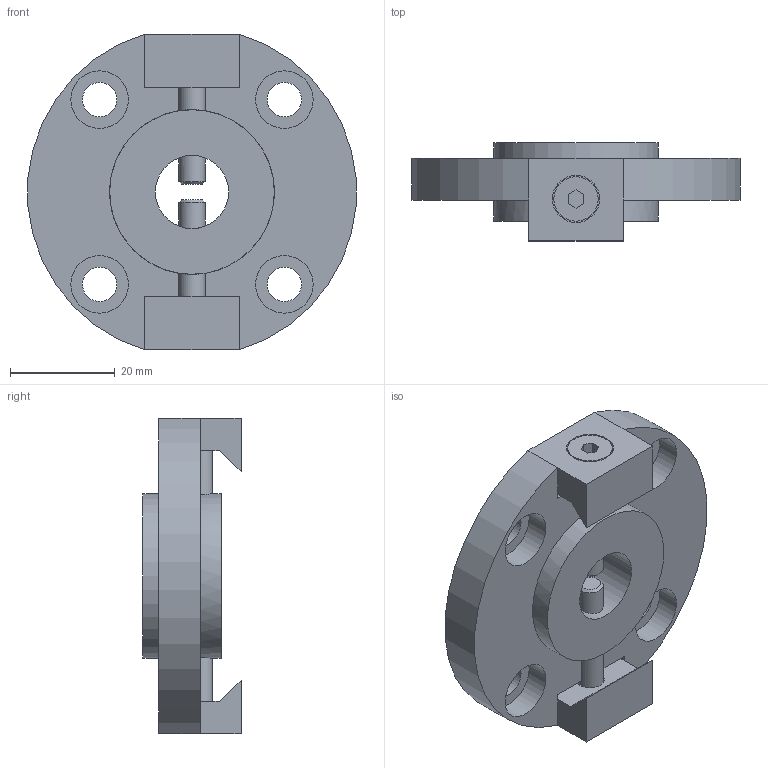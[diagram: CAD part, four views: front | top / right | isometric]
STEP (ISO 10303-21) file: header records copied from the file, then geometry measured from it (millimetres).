
FILE_DESCRIPTION(/* description */ ('STEP AP242','CAx-IF Rec.Pracs.---Representation and Presentation of Product Manufacturing Information (PMI)---4.0---2014-10-13','CAx-IF Rec.Pracs.---3D Tessellated Geometry---0.4---2014-09-14','2;1'),/* implementation_level */ '2;1');
FILE_NAME(/* name */ 'RMTM2-4M1',/* time_stamp */ '2025-11-14T18:13:39+01:00',/* author */ ('License CC BY-ND 4.0'),/* organization */ ('CADENAS'),/* preprocessor_version */ 'ST-DEVELOPER v20',/* originating_system */ 'PARTsolutions',/* authorisation */ ' ');
FILE_SCHEMA (('AP242_MANAGED_MODEL_BASED_3D_ENGINEERING_MIM_LF { 1 0 10303 442 1 1 4 }'));
Length unit declared in the file: millimetre
Products named in the file (1): RMTM2-4M1
Bounding box: 62.77 x 18.8 x 60.37 mm (x, y, z)
Volume: 27425.3 mm3; surface area: 11729.6 mm2
Topology: 1 solids, 1 shells, 86 faces, 203 edges, 134 vertices
Faces by surface type: plane 57, cylinder 27, cone 2
Full cylindrical faces by diameter (mm): 5 x4, 5.5 x2, 6.6 x4, 8.5 x2, 9 x2, 11 x4, 14 x1, 31.5 x2
Entity records: 2348 total; most frequent: CARTESIAN_POINT 415, DIRECTION 396, ORIENTED_EDGE 342, EDGE_CURVE 171, AXIS2_PLACEMENT_3D 142, EDGE_LOOP 138, FACE_BOUND 138, VERTEX_POINT 125
